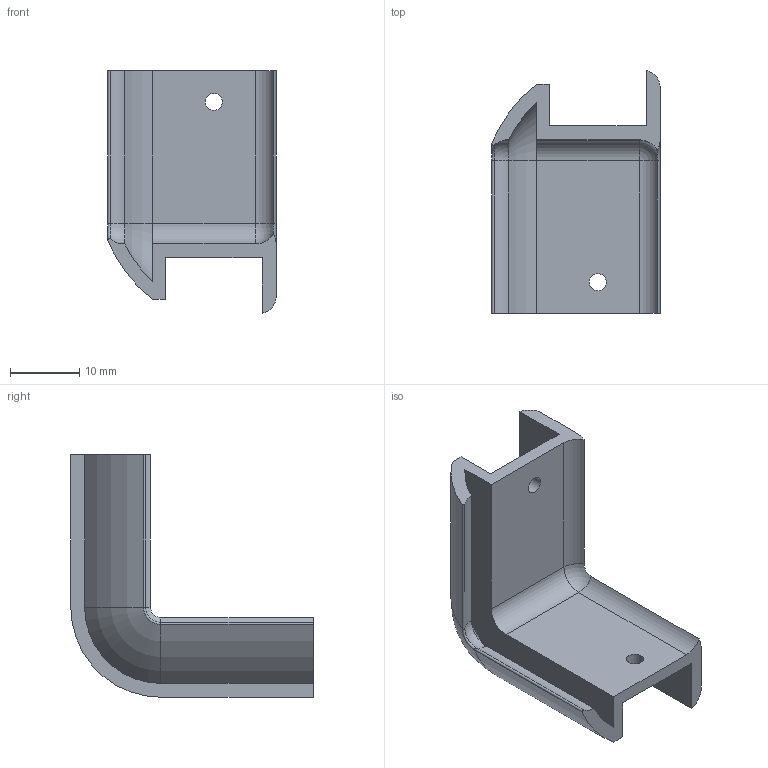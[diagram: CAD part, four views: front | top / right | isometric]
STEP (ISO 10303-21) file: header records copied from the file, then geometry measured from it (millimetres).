
FILE_DESCRIPTION (( 'STEP AP214' ), '1' );
FILE_NAME ('L15821.step', '2024-12-03T16:19:22', ( '' ), ( '' ), 'SwSTEP 2.0', 'SolidWorks 2023', '' );
FILE_SCHEMA (( 'AUTOMOTIVE_DESIGN' ));
Length unit declared in the file: millimetre
Products named in the file (1): L15821
Bounding box: 24.3 x 35 x 35 mm (x, y, z)
Volume: 4281.1 mm3; surface area: 4768.2 mm2
Topology: 1 solids, 1 shells, 38 faces, 100 edges, 62 vertices
Faces by surface type: cylinder 19, plane 12, torus 5, sphere 2
Full cylindrical faces by diameter (mm): 2.45 x2
Entity records: 1171 total; most frequent: DIRECTION 218, CARTESIAN_POINT 193, ORIENTED_EDGE 188, EDGE_CURVE 94, AXIS2_PLACEMENT_3D 85, VERTEX_POINT 60, VECTOR 48, LINE 48
